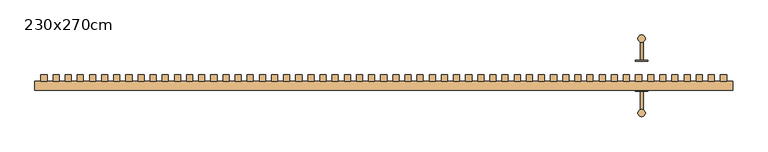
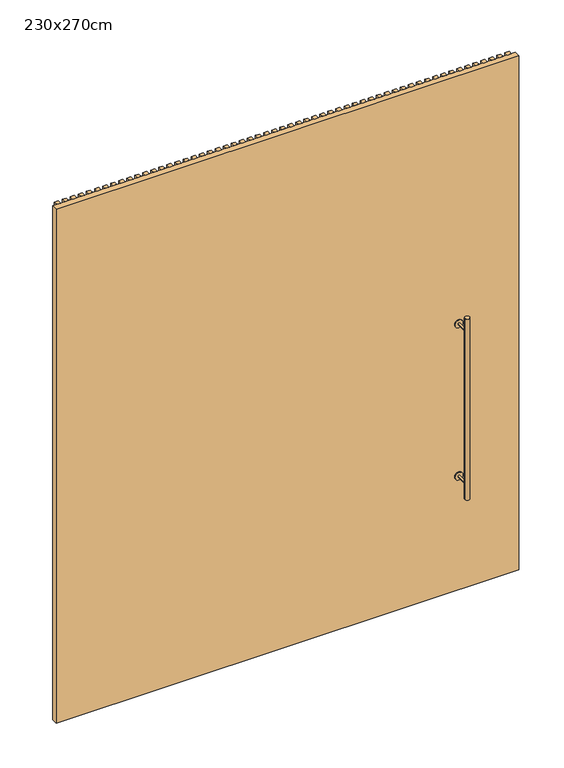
"""IFC4 building model written with IfcOpenShell, lengths in millimetres: door geometry, ARQ_Porta_Pivotante_1F_Ripado : 230x270cm."""

from ifc_helpers import new_model, si_unit, point, frame, frame_2d, origin, origin_with_axes, place, context, project, spatial, polyline, circle_curve, trimmed, segment, composite_curve, outline, extrude, source, transform, mapped, element, save


def door_230x270cm_dd2fdfbe(model_context):
    return source(origin(), model_context, "Body", "SweptSolid", [
        extrude(outline(composite_curve([segment(trimmed(circle_curve(frame_2d((850.0, -95.0)), 12.0), [point((862.0, -95.0))], [point((838.0, -95.0))], False, "CARTESIAN"), True, "CONTINUOUS"), segment(trimmed(circle_curve(frame_2d((850.0, -95.0)), 12.0), [point((838.0, -95.0))], [point((862.0, -95.0))], False, "CARTESIAN"), True, "CONTINUOUS")], self_intersect=False)), frame((0.0, 0.0, 525.0), z_axis=(0.0, 0.0, 1.0), x_axis=(1.0, 0.0, 0.0)), (0.0, 0.0, 1.0), 950.0),
        extrude(outline(composite_curve([segment(trimmed(circle_curve(frame_2d((1400.0, 850.0)), 5.0), [point((1400.0, 845.0))], [point((1400.0, 855.0))], False, "CARTESIAN"), True, "CONTINUOUS"), segment(trimmed(circle_curve(frame_2d((1400.0, 850.0)), 5.0), [point((1400.0, 855.0))], [point((1400.0, 845.0))], False, "CARTESIAN"), True, "CONTINUOUS")], self_intersect=False)), frame((0.0, -95.0, 0.0), z_axis=(0.0, 1.0, 0.0), x_axis=(0.0, 0.0, 1.0)), (0.0, 0.0, 1.0), 71.0),
        extrude(outline(composite_curve([segment(trimmed(circle_curve(frame_2d((600.0, 850.0)), 5.0), [point((600.0, 845.0))], [point((600.0, 855.0))], False, "CARTESIAN"), True, "CONTINUOUS"), segment(trimmed(circle_curve(frame_2d((600.0, 850.0)), 5.0), [point((600.0, 855.0))], [point((600.0, 845.0))], False, "CARTESIAN"), True, "CONTINUOUS")], self_intersect=False)), frame((0.0, -95.0, 0.0), z_axis=(0.0, 1.0, 0.0), x_axis=(0.0, 0.0, 1.0)), (0.0, 0.0, 1.0), 71.0),
        extrude(outline(composite_curve([segment(trimmed(circle_curve(frame_2d((1400.0, 850.0)), 20.0), [point((1400.0, 870.0))], [point((1400.0, 830.0))], False, "CARTESIAN"), True, "CONTINUOUS"), segment(trimmed(circle_curve(frame_2d((1400.0, 850.0)), 20.0), [point((1400.0, 830.0))], [point((1400.0, 870.0))], False, "CARTESIAN"), True, "CONTINUOUS")], self_intersect=False)), frame((0.0, -24.0, 0.0), z_axis=(0.0, 1.0, 0.0), x_axis=(0.0, 0.0, 1.0)), (0.0, 0.0, 1.0), 4.0),
        extrude(outline(composite_curve([segment(trimmed(circle_curve(frame_2d((600.0, 850.0)), 20.0), [point((600.0, 870.0))], [point((600.0, 830.0))], False, "CARTESIAN"), True, "CONTINUOUS"), segment(trimmed(circle_curve(frame_2d((600.0, 850.0)), 20.0), [point((600.0, 830.0))], [point((600.0, 870.0))], False, "CARTESIAN"), True, "CONTINUOUS")], self_intersect=False)), frame((0.0, -24.0, 0.0), z_axis=(0.0, 1.0, 0.0), x_axis=(0.0, 0.0, 1.0)), (0.0, 0.0, 1.0), 4.0),
        extrude(outline(polyline([(-1110.0, 10.0), (-1130.0, 10.0), (-1130.0, 30.0), (-1110.0, 30.0), (-1110.0, 10.0)])), origin_with_axes(), (0.0, 0.0, 1.0), 2700.0),
        extrude(outline(polyline([(-1070.0, 10.0), (-1090.0, 10.0), (-1090.0, 30.0), (-1070.0, 30.0), (-1070.0, 10.0)])), origin_with_axes(), (0.0, 0.0, 1.0), 2700.0),
        extrude(outline(polyline([(-1030.0, 10.0), (-1050.0, 10.0), (-1050.0, 30.0), (-1030.0, 30.0), (-1030.0, 10.0)])), origin_with_axes(), (0.0, 0.0, 1.0), 2700.0),
        extrude(outline(polyline([(-990.0, 10.0), (-1010.0, 10.0), (-1010.0, 30.0), (-990.0, 30.0), (-990.0, 10.0)])), origin_with_axes(), (0.0, 0.0, 1.0), 2700.0),
        extrude(outline(polyline([(-950.0, 10.0), (-970.0, 10.0), (-970.0, 30.0), (-950.0, 30.0), (-950.0, 10.0)])), origin_with_axes(), (0.0, 0.0, 1.0), 2700.0),
        extrude(outline(polyline([(-910.0, 10.0), (-930.0, 10.0), (-930.0, 30.0), (-910.0, 30.0), (-910.0, 10.0)])), origin_with_axes(), (0.0, 0.0, 1.0), 2700.0),
        extrude(outline(polyline([(-870.0, 10.0), (-890.0, 10.0), (-890.0, 30.0), (-870.0, 30.0), (-870.0, 10.0)])), origin_with_axes(), (0.0, 0.0, 1.0), 2700.0),
        extrude(outline(polyline([(-830.0, 10.0), (-850.0, 10.0), (-850.0, 30.0), (-830.0, 30.0), (-830.0, 10.0)])), origin_with_axes(), (0.0, 0.0, 1.0), 2700.0),
        extrude(outline(polyline([(-790.0, 10.0), (-810.0, 10.0), (-810.0, 30.0), (-790.0, 30.0), (-790.0, 10.0)])), origin_with_axes(), (0.0, 0.0, 1.0), 2700.0),
        extrude(outline(polyline([(-750.0, 10.0), (-770.0, 10.0), (-770.0, 30.0), (-750.0, 30.0), (-750.0, 10.0)])), origin_with_axes(), (0.0, 0.0, 1.0), 2700.0),
        extrude(outline(polyline([(-710.0, 10.0), (-730.0, 10.0), (-730.0, 30.0), (-710.0, 30.0), (-710.0, 10.0)])), origin_with_axes(), (0.0, 0.0, 1.0), 2700.0),
        extrude(outline(polyline([(-670.0, 10.0), (-690.0, 10.0), (-690.0, 30.0), (-670.0, 30.0), (-670.0, 10.0)])), origin_with_axes(), (0.0, 0.0, 1.0), 2700.0),
        extrude(outline(polyline([(-630.0, 10.0), (-650.0, 10.0), (-650.0, 30.0), (-630.0, 30.0), (-630.0, 10.0)])), origin_with_axes(), (0.0, 0.0, 1.0), 2700.0),
        extrude(outline(polyline([(-590.0, 10.0), (-610.0, 10.0), (-610.0, 30.0), (-590.0, 30.0), (-590.0, 10.0)])), origin_with_axes(), (0.0, 0.0, 1.0), 2700.0),
        extrude(outline(polyline([(-550.0, 10.0), (-570.0, 10.0), (-570.0, 30.0), (-550.0, 30.0), (-550.0, 10.0)])), origin_with_axes(), (0.0, 0.0, 1.0), 2700.0),
        extrude(outline(polyline([(-510.0, 10.0), (-530.0, 10.0), (-530.0, 30.0), (-510.0, 30.0), (-510.0, 10.0)])), origin_with_axes(), (0.0, 0.0, 1.0), 2700.0),
        extrude(outline(polyline([(-470.0, 10.0), (-490.0, 10.0), (-490.0, 30.0), (-470.0, 30.0), (-470.0, 10.0)])), origin_with_axes(), (0.0, 0.0, 1.0), 2700.0),
        extrude(outline(polyline([(-430.0, 10.0), (-450.0, 10.0), (-450.0, 30.0), (-430.0, 30.0), (-430.0, 10.0)])), origin_with_axes(), (0.0, 0.0, 1.0), 2700.0),
        extrude(outline(polyline([(-390.0, 10.0), (-410.0, 10.0), (-410.0, 30.0), (-390.0, 30.0), (-390.0, 10.0)])), origin_with_axes(), (0.0, 0.0, 1.0), 2700.0),
        extrude(outline(polyline([(-350.0, 10.0), (-370.0, 10.0), (-370.0, 30.0), (-350.0, 30.0), (-350.0, 10.0)])), origin_with_axes(), (0.0, 0.0, 1.0), 2700.0),
        extrude(outline(polyline([(-310.0, 10.0), (-330.0, 10.0), (-330.0, 30.0), (-310.0, 30.0), (-310.0, 10.0)])), origin_with_axes(), (0.0, 0.0, 1.0), 2700.0),
        extrude(outline(polyline([(-270.0, 10.0), (-290.0, 10.0), (-290.0, 30.0), (-270.0, 30.0), (-270.0, 10.0)])), origin_with_axes(), (0.0, 0.0, 1.0), 2700.0),
        extrude(outline(polyline([(-230.0, 10.0), (-250.0, 10.0), (-250.0, 30.0), (-230.0, 30.0), (-230.0, 10.0)])), origin_with_axes(), (0.0, 0.0, 1.0), 2700.0),
        extrude(outline(polyline([(-190.0, 10.0), (-210.0, 10.0), (-210.0, 30.0), (-190.0, 30.0), (-190.0, 10.0)])), origin_with_axes(), (0.0, 0.0, 1.0), 2700.0),
        extrude(outline(polyline([(-150.0, 10.0), (-170.0, 10.0), (-170.0, 30.0), (-150.0, 30.0), (-150.0, 10.0)])), origin_with_axes(), (0.0, 0.0, 1.0), 2700.0),
        extrude(outline(polyline([(-110.0, 10.0), (-130.0, 10.0), (-130.0, 30.0), (-110.0, 30.0), (-110.0, 10.0)])), origin_with_axes(), (0.0, 0.0, 1.0), 2700.0),
        extrude(outline(polyline([(-70.0, 10.0), (-90.0, 10.0), (-90.0, 30.0), (-70.0, 30.0), (-70.0, 10.0)])), origin_with_axes(), (0.0, 0.0, 1.0), 2700.0),
        extrude(outline(polyline([(-30.0, 10.0), (-50.0, 10.0), (-50.0, 30.0), (-30.0, 30.0), (-30.0, 10.0)])), origin_with_axes(), (0.0, 0.0, 1.0), 2700.0),
        extrude(outline(polyline([(10.0, 10.0), (-10.0, 10.0), (-10.0, 30.0), (10.0, 30.0), (10.0, 10.0)])), origin_with_axes(), (0.0, 0.0, 1.0), 2700.0),
        extrude(outline(polyline([(50.0, 10.0), (30.0, 10.0), (30.0, 30.0), (50.0, 30.0), (50.0, 10.0)])), origin_with_axes(), (0.0, 0.0, 1.0), 2700.0),
        extrude(outline(polyline([(90.0, 10.0), (70.0, 10.0), (70.0, 30.0), (90.0, 30.0), (90.0, 10.0)])), origin_with_axes(), (0.0, 0.0, 1.0), 2700.0),
        extrude(outline(polyline([(130.0, 10.0), (110.0, 10.0), (110.0, 30.0), (130.0, 30.0), (130.0, 10.0)])), origin_with_axes(), (0.0, 0.0, 1.0), 2700.0),
        extrude(outline(polyline([(170.0, 10.0), (150.0, 10.0), (150.0, 30.0), (170.0, 30.0), (170.0, 10.0)])), origin_with_axes(), (0.0, 0.0, 1.0), 2700.0),
        extrude(outline(polyline([(210.0, 10.0), (190.0, 10.0), (190.0, 30.0), (210.0, 30.0), (210.0, 10.0)])), origin_with_axes(), (0.0, 0.0, 1.0), 2700.0),
        extrude(outline(polyline([(250.0, 10.0), (230.0, 10.0), (230.0, 30.0), (250.0, 30.0), (250.0, 10.0)])), origin_with_axes(), (0.0, 0.0, 1.0), 2700.0),
        extrude(outline(polyline([(290.0, 10.0), (270.0, 10.0), (270.0, 30.0), (290.0, 30.0), (290.0, 10.0)])), origin_with_axes(), (0.0, 0.0, 1.0), 2700.0),
        extrude(outline(polyline([(330.0, 10.0), (310.0, 10.0), (310.0, 30.0), (330.0, 30.0), (330.0, 10.0)])), origin_with_axes(), (0.0, 0.0, 1.0), 2700.0),
        extrude(outline(polyline([(370.0, 10.0), (350.0, 10.0), (350.0, 30.0), (370.0, 30.0), (370.0, 10.0)])), origin_with_axes(), (0.0, 0.0, 1.0), 2700.0),
        extrude(outline(polyline([(410.0, 10.0), (390.0, 10.0), (390.0, 30.0), (410.0, 30.0), (410.0, 10.0)])), origin_with_axes(), (0.0, 0.0, 1.0), 2700.0),
        extrude(outline(polyline([(450.0, 10.0), (430.0, 10.0), (430.0, 30.0), (450.0, 30.0), (450.0, 10.0)])), origin_with_axes(), (0.0, 0.0, 1.0), 2700.0),
        extrude(outline(polyline([(490.0, 10.0), (470.0, 10.0), (470.0, 30.0), (490.0, 30.0), (490.0, 10.0)])), origin_with_axes(), (0.0, 0.0, 1.0), 2700.0),
        extrude(outline(polyline([(530.0, 10.0), (510.0, 10.0), (510.0, 30.0), (530.0, 30.0), (530.0, 10.0)])), origin_with_axes(), (0.0, 0.0, 1.0), 2700.0),
        extrude(outline(polyline([(570.0, 10.0), (550.0, 10.0), (550.0, 30.0), (570.0, 30.0), (570.0, 10.0)])), origin_with_axes(), (0.0, 0.0, 1.0), 2700.0),
        extrude(outline(polyline([(610.0, 10.0), (590.0, 10.0), (590.0, 30.0), (610.0, 30.0), (610.0, 10.0)])), origin_with_axes(), (0.0, 0.0, 1.0), 2700.0),
        extrude(outline(polyline([(650.0, 10.0), (630.0, 10.0), (630.0, 30.0), (650.0, 30.0), (650.0, 10.0)])), origin_with_axes(), (0.0, 0.0, 1.0), 2700.0),
        extrude(outline(polyline([(690.0, 10.0), (670.0, 10.0), (670.0, 30.0), (690.0, 30.0), (690.0, 10.0)])), origin_with_axes(), (0.0, 0.0, 1.0), 2700.0),
        extrude(outline(polyline([(730.0, 10.0), (710.0, 10.0), (710.0, 30.0), (730.0, 30.0), (730.0, 10.0)])), origin_with_axes(), (0.0, 0.0, 1.0), 2700.0),
        extrude(outline(polyline([(770.0, 10.0), (750.0, 10.0), (750.0, 30.0), (770.0, 30.0), (770.0, 10.0)])), origin_with_axes(), (0.0, 0.0, 1.0), 2700.0),
        extrude(outline(polyline([(810.0, 10.0), (790.0, 10.0), (790.0, 30.0), (810.0, 30.0), (810.0, 10.0)])), origin_with_axes(), (0.0, 0.0, 1.0), 2700.0),
        extrude(outline(polyline([(850.0, 10.0), (830.0, 10.0), (830.0, 30.0), (850.0, 30.0), (850.0, 10.0)])), origin_with_axes(), (0.0, 0.0, 1.0), 2700.0),
        extrude(outline(polyline([(890.0, 10.0), (870.0, 10.0), (870.0, 30.0), (890.0, 30.0), (890.0, 10.0)])), origin_with_axes(), (0.0, 0.0, 1.0), 2700.0),
        extrude(outline(polyline([(930.0, 10.0), (910.0, 10.0), (910.0, 30.0), (930.0, 30.0), (930.0, 10.0)])), origin_with_axes(), (0.0, 0.0, 1.0), 2700.0),
        extrude(outline(polyline([(970.0, 10.0), (950.0, 10.0), (950.0, 30.0), (970.0, 30.0), (970.0, 10.0)])), origin_with_axes(), (0.0, 0.0, 1.0), 2700.0),
        extrude(outline(polyline([(1010.0, 10.0), (990.0, 10.0), (990.0, 30.0), (1010.0, 30.0), (1010.0, 10.0)])), origin_with_axes(), (0.0, 0.0, 1.0), 2700.0),
        extrude(outline(polyline([(1050.0, 10.0), (1030.0, 10.0), (1030.0, 30.0), (1050.0, 30.0), (1050.0, 10.0)])), origin_with_axes(), (0.0, 0.0, 1.0), 2700.0),
        extrude(outline(polyline([(1090.0, 10.0), (1070.0, 10.0), (1070.0, 30.0), (1090.0, 30.0), (1090.0, 10.0)])), origin_with_axes(), (0.0, 0.0, 1.0), 2700.0),
        extrude(outline(polyline([(1130.0, 10.0), (1110.0, 10.0), (1110.0, 30.0), (1130.0, 30.0), (1130.0, 10.0)])), origin_with_axes(), (0.0, 0.0, 1.0), 2700.0),
        extrude(outline(composite_curve([segment(trimmed(circle_curve(frame_2d((850.0, 150.0)), 12.0), [point((838.0, 150.0))], [point((862.0, 150.0))], False, "CARTESIAN"), True, "CONTINUOUS"), segment(trimmed(circle_curve(frame_2d((850.0, 150.0)), 12.0), [point((862.0, 150.0))], [point((838.0, 150.0))], False, "CARTESIAN"), True, "CONTINUOUS")], self_intersect=False)), frame((0.0, 0.0, 525.0), z_axis=(0.0, 0.0, 1.0), x_axis=(1.0, 0.0, 0.0)), (0.0, 0.0, 1.0), 950.0),
        extrude(outline(composite_curve([segment(trimmed(circle_curve(frame_2d((1400.0, 850.0)), 5.0), [point((1400.0, 855.0))], [point((1400.0, 845.0))], False, "CARTESIAN"), True, "CONTINUOUS"), segment(trimmed(circle_curve(frame_2d((1400.0, 850.0)), 5.0), [point((1400.0, 845.0))], [point((1400.0, 855.0))], False, "CARTESIAN"), True, "CONTINUOUS")], self_intersect=False)), frame((0.0, 79.0, 0.0), z_axis=(0.0, 1.0, 0.0), x_axis=(0.0, 0.0, 1.0)), (0.0, 0.0, 1.0), 71.0),
        extrude(outline(composite_curve([segment(trimmed(circle_curve(frame_2d((600.0, 850.0)), 5.0), [point((600.0, 855.0))], [point((600.0, 845.0))], False, "CARTESIAN"), True, "CONTINUOUS"), segment(trimmed(circle_curve(frame_2d((600.0, 850.0)), 5.0), [point((600.0, 845.0))], [point((600.0, 855.0))], False, "CARTESIAN"), True, "CONTINUOUS")], self_intersect=False)), frame((0.0, 79.0, 0.0), z_axis=(0.0, 1.0, 0.0), x_axis=(0.0, 0.0, 1.0)), (0.0, 0.0, 1.0), 71.0),
        extrude(outline(composite_curve([segment(trimmed(circle_curve(frame_2d((1400.0, 850.0)), 20.0), [point((1400.0, 830.0))], [point((1400.0, 870.0))], False, "CARTESIAN"), True, "CONTINUOUS"), segment(trimmed(circle_curve(frame_2d((1400.0, 850.0)), 20.0), [point((1400.0, 870.0))], [point((1400.0, 830.0))], False, "CARTESIAN"), True, "CONTINUOUS")], self_intersect=False)), frame((0.0, 75.0, 0.0), z_axis=(0.0, 1.0, 0.0), x_axis=(0.0, 0.0, 1.0)), (0.0, 0.0, 1.0), 4.0),
        extrude(outline(composite_curve([segment(trimmed(circle_curve(frame_2d((600.0, 850.0)), 20.0), [point((600.0, 830.0))], [point((600.0, 870.0))], False, "CARTESIAN"), True, "CONTINUOUS"), segment(trimmed(circle_curve(frame_2d((600.0, 850.0)), 20.0), [point((600.0, 870.0))], [point((600.0, 830.0))], False, "CARTESIAN"), True, "CONTINUOUS")], self_intersect=False)), frame((0.0, 75.0, 0.0), z_axis=(0.0, 1.0, 0.0), x_axis=(0.0, 0.0, 1.0)), (0.0, 0.0, 1.0), 4.0),
        extrude(outline(polyline([(1150.0, 10.0), (1150.0, -20.0), (-1150.0, -20.0), (-1150.0, 10.0), (1150.0, 10.0)])), origin_with_axes(), (0.0, 0.0, 1.0), 2700.0),
    ])


if __name__ == "__main__":
    model = new_model("IFC4")
    model_context = context("Model", 3, world=origin())
    ifc_project = project(units=[si_unit("LENGTHUNIT", "METRE", prefix="MILLI")], contexts=[model_context])
    site = spatial("IfcSite", under=ifc_project)
    building = spatial("IfcBuilding", under=site)
    placement = place(None, origin())
    door_230x270cm_shape = door_230x270cm_dd2fdfbe(model_context)
    element("IfcDoor", 1, ObjectType="ARQ_Porta_Pivotante_1F_Ripado : 230x270cm", at=placement, inside=building, context=model_context, shape_type="MappedRepresentation", body=[
        mapped(door_230x270cm_shape, transform((0.0, 0.0, 0.0), x_axis=(1.0, 0.0, 0.0), y_axis=(0.0, 1.0, 0.0), z_axis=(0.0, 0.0, 1.0))),
    ])
    save(model, "model.ifc")
